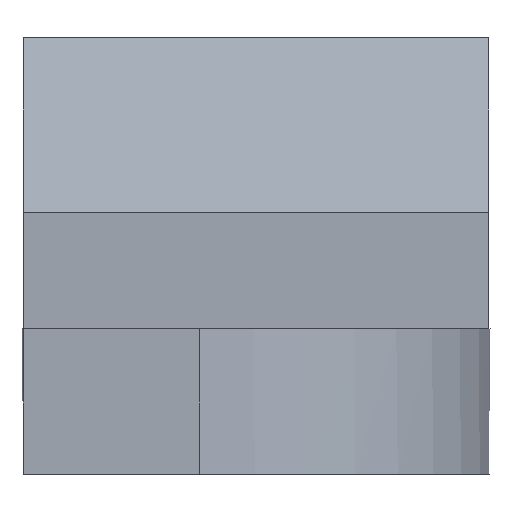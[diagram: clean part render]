
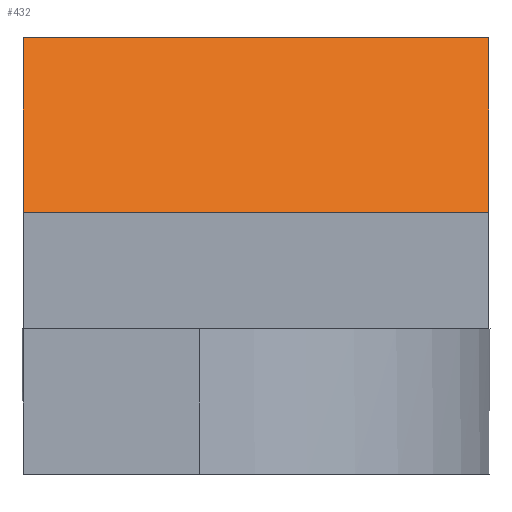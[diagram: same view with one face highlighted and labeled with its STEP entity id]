
A CAD part, left-side view. The second image highlights one B-rep face of the part: STEP entity #432.
In plain terms, the highlighted planar face has unit normal (-0.707, 0, 0.707).
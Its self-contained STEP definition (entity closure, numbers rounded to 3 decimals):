
#7 = VERTEX_POINT ( 'NONE', #8 ) ;
#8 = CARTESIAN_POINT ( 'NONE',  ( -9.441, 5.316, 2. ) ) ;
#42 = LINE ( 'NONE', #442, #150 ) ;
#58 = ORIENTED_EDGE ( 'NONE', *, *, #467, .F. ) ;
#60 = ORIENTED_EDGE ( 'NONE', *, *, #75, .F. ) ;
#64 = DIRECTION ( 'NONE',  ( 0., 1., 0. ) ) ;
#67 = VECTOR ( 'NONE', #408, 1000. ) ;
#75 = EDGE_CURVE ( 'NONE', #7, #387, #144, .T. ) ;
#83 = LINE ( 'NONE', #368, #213 ) ;
#113 = CARTESIAN_POINT ( 'NONE',  ( -9.441, 5.316, 2. ) ) ;
#121 = EDGE_CURVE ( 'NONE', #387, #586, #42, .T. ) ;
#125 = CARTESIAN_POINT ( 'NONE',  ( -6.441, -2.684, 5. ) ) ;
#144 = LINE ( 'NONE', #301, #414 ) ;
#150 = VECTOR ( 'NONE', #246, 1000. ) ;
#213 = VECTOR ( 'NONE', #247, 1000. ) ;
#225 = ORIENTED_EDGE ( 'NONE', *, *, #121, .F. ) ;
#245 = ORIENTED_EDGE ( 'NONE', *, *, #274, .F. ) ;
#246 = DIRECTION ( 'NONE',  ( 0., -1., 0. ) ) ;
#247 = DIRECTION ( 'NONE',  ( -0.707, 0., -0.707 ) ) ;
#274 = EDGE_CURVE ( 'NONE', #586, #471, #83, .T. ) ;
#301 = CARTESIAN_POINT ( 'NONE',  ( -7.941, 5.316, 3.5 ) ) ;
#313 = PLANE ( 'NONE',  #573 ) ;
#336 = FACE_OUTER_BOUND ( 'NONE', #567, .T. ) ;
#361 = DIRECTION ( 'NONE',  ( -0.707, 0., 0.707 ) ) ;
#368 = CARTESIAN_POINT ( 'NONE',  ( -6.441, -2.684, 5. ) ) ;
#387 = VERTEX_POINT ( 'NONE', #404 ) ;
#397 = LINE ( 'NONE', #113, #67 ) ;
#404 = CARTESIAN_POINT ( 'NONE',  ( -6.441, 5.316, 5. ) ) ;
#406 = CARTESIAN_POINT ( 'NONE',  ( -6.441, 0., 5. ) ) ;
#408 = DIRECTION ( 'NONE',  ( 0., 1., 0. ) ) ;
#409 = CARTESIAN_POINT ( 'NONE',  ( -9.441, -2.684, 2. ) ) ;
#414 = VECTOR ( 'NONE', #436, 1000. ) ;
#432 = ADVANCED_FACE ( 'NONE', ( #336 ), #313, .T. ) ;
#436 = DIRECTION ( 'NONE',  ( 0.707, 0., 0.707 ) ) ;
#442 = CARTESIAN_POINT ( 'NONE',  ( -6.441, -2.684, 5. ) ) ;
#467 = EDGE_CURVE ( 'NONE', #471, #7, #397, .T. ) ;
#471 = VERTEX_POINT ( 'NONE', #409 ) ;
#567 = EDGE_LOOP ( 'NONE', ( #60, #58, #245, #225 ) ) ;
#573 = AXIS2_PLACEMENT_3D ( 'NONE', #406, #361, #64 ) ;
#586 = VERTEX_POINT ( 'NONE', #125 ) ;
